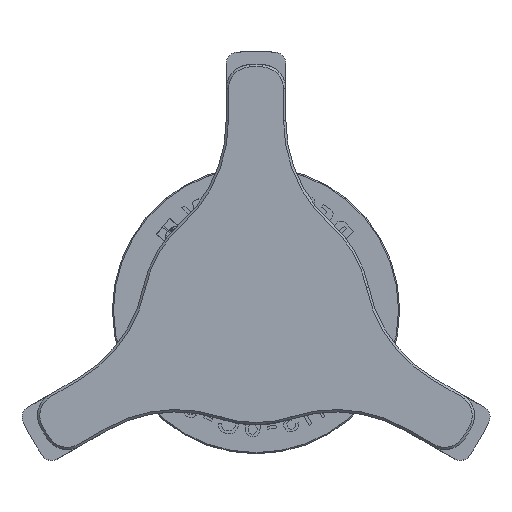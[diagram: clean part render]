
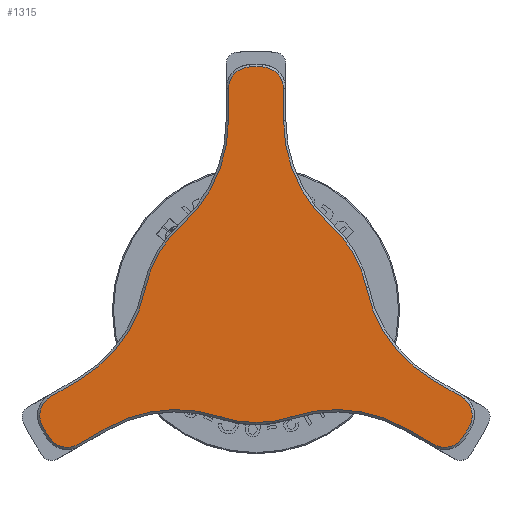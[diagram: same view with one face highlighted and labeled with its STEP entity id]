
A CAD part, top view. The second image highlights one B-rep face of the part: STEP entity #1315.
In plain terms, the highlighted planar face has unit normal (0, 0, 1).
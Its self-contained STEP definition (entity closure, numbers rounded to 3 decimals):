
#1128=PLANE('',#4201);
#1315=ADVANCED_FACE('',(#1515),#1128,.T.);
#1515=FACE_OUTER_BOUND('',#1628,.T.);
#1628=EDGE_LOOP('',(#2256,#2257,#2258,#2259,#2260,#2261,#2262,#2263,#2264,
#2265,#2266,#2267,#2268,#2269,#2270,#2271,#2272,#2273,#2274,#2275,#2276,
#2277,#2278,#2279));
#1872=CIRCLE('',#4183,1.9);
#1873=CIRCLE('',#4184,21.15);
#1874=CIRCLE('',#4185,1.9);
#1875=CIRCLE('',#4186,12.2);
#1876=CIRCLE('',#4187,9.8);
#1877=CIRCLE('',#4188,12.2);
#1878=CIRCLE('',#4189,1.9);
#1879=CIRCLE('',#4190,21.15);
#1880=CIRCLE('',#4191,1.9);
#1881=CIRCLE('',#4192,12.2);
#1882=CIRCLE('',#4193,9.8);
#1883=CIRCLE('',#4194,12.2);
#1884=CIRCLE('',#4195,1.9);
#1885=CIRCLE('',#4196,21.15);
#1886=CIRCLE('',#4197,1.9);
#1887=CIRCLE('',#4198,12.2);
#1888=CIRCLE('',#4199,9.8);
#1889=CIRCLE('',#4200,12.2);
#2256=ORIENTED_EDGE('',*,*,#3537,.T.);
#2257=ORIENTED_EDGE('',*,*,#3538,.T.);
#2258=ORIENTED_EDGE('',*,*,#3539,.T.);
#2259=ORIENTED_EDGE('',*,*,#3540,.T.);
#2260=ORIENTED_EDGE('',*,*,#3541,.T.);
#2261=ORIENTED_EDGE('',*,*,#3542,.T.);
#2262=ORIENTED_EDGE('',*,*,#3543,.T.);
#2263=ORIENTED_EDGE('',*,*,#3544,.T.);
#2264=ORIENTED_EDGE('',*,*,#3545,.T.);
#2265=ORIENTED_EDGE('',*,*,#3546,.T.);
#2266=ORIENTED_EDGE('',*,*,#3547,.T.);
#2267=ORIENTED_EDGE('',*,*,#3548,.T.);
#2268=ORIENTED_EDGE('',*,*,#3549,.T.);
#2269=ORIENTED_EDGE('',*,*,#3550,.T.);
#2270=ORIENTED_EDGE('',*,*,#3551,.T.);
#2271=ORIENTED_EDGE('',*,*,#3552,.T.);
#2272=ORIENTED_EDGE('',*,*,#3553,.T.);
#2273=ORIENTED_EDGE('',*,*,#3554,.T.);
#2274=ORIENTED_EDGE('',*,*,#3555,.T.);
#2275=ORIENTED_EDGE('',*,*,#3556,.T.);
#2276=ORIENTED_EDGE('',*,*,#3557,.T.);
#2277=ORIENTED_EDGE('',*,*,#3558,.T.);
#2278=ORIENTED_EDGE('',*,*,#3559,.T.);
#2279=ORIENTED_EDGE('',*,*,#3560,.T.);
#3156=VERTEX_POINT('',#5252);
#3157=VERTEX_POINT('',#5253);
#3158=VERTEX_POINT('',#5255);
#3159=VERTEX_POINT('',#5257);
#3160=VERTEX_POINT('',#5259);
#3161=VERTEX_POINT('',#5261);
#3162=VERTEX_POINT('',#5263);
#3163=VERTEX_POINT('',#5265);
#3164=VERTEX_POINT('',#5267);
#3165=VERTEX_POINT('',#5269);
#3166=VERTEX_POINT('',#5271);
#3167=VERTEX_POINT('',#5273);
#3168=VERTEX_POINT('',#5275);
#3169=VERTEX_POINT('',#5277);
#3170=VERTEX_POINT('',#5279);
#3171=VERTEX_POINT('',#5281);
#3172=VERTEX_POINT('',#5283);
#3173=VERTEX_POINT('',#5285);
#3174=VERTEX_POINT('',#5287);
#3175=VERTEX_POINT('',#5289);
#3176=VERTEX_POINT('',#5291);
#3177=VERTEX_POINT('',#5293);
#3178=VERTEX_POINT('',#5295);
#3179=VERTEX_POINT('',#5297);
#3537=EDGE_CURVE('',#3156,#3157,#3952,.T.);
#3538=EDGE_CURVE('',#3157,#3158,#1872,.T.);
#3539=EDGE_CURVE('',#3158,#3159,#1873,.T.);
#3540=EDGE_CURVE('',#3159,#3160,#1874,.T.);
#3541=EDGE_CURVE('',#3160,#3161,#3953,.T.);
#3542=EDGE_CURVE('',#3161,#3162,#1875,.T.);
#3543=EDGE_CURVE('',#3162,#3163,#1876,.T.);
#3544=EDGE_CURVE('',#3163,#3164,#1877,.T.);
#3545=EDGE_CURVE('',#3164,#3165,#3954,.T.);
#3546=EDGE_CURVE('',#3165,#3166,#1878,.T.);
#3547=EDGE_CURVE('',#3166,#3167,#1879,.T.);
#3548=EDGE_CURVE('',#3167,#3168,#1880,.T.);
#3549=EDGE_CURVE('',#3168,#3169,#3955,.T.);
#3550=EDGE_CURVE('',#3169,#3170,#1881,.T.);
#3551=EDGE_CURVE('',#3170,#3171,#1882,.T.);
#3552=EDGE_CURVE('',#3171,#3172,#1883,.T.);
#3553=EDGE_CURVE('',#3172,#3173,#3956,.T.);
#3554=EDGE_CURVE('',#3173,#3174,#1884,.T.);
#3555=EDGE_CURVE('',#3174,#3175,#1885,.T.);
#3556=EDGE_CURVE('',#3175,#3176,#1886,.T.);
#3557=EDGE_CURVE('',#3176,#3177,#3957,.T.);
#3558=EDGE_CURVE('',#3177,#3178,#1887,.T.);
#3559=EDGE_CURVE('',#3178,#3179,#1888,.T.);
#3560=EDGE_CURVE('',#3179,#3156,#1889,.T.);
#3952=LINE('',#5251,#4059);
#3953=LINE('',#5260,#4060);
#3954=LINE('',#5268,#4061);
#3955=LINE('',#5276,#4062);
#3956=LINE('',#5284,#4063);
#3957=LINE('',#5292,#4064);
#4059=VECTOR('',#4519,1.);
#4060=VECTOR('',#4526,1.);
#4061=VECTOR('',#4533,1.);
#4062=VECTOR('',#4540,1.);
#4063=VECTOR('',#4547,1.);
#4064=VECTOR('',#4554,1.);
#4183=AXIS2_PLACEMENT_3D('',#5254,#4520,#4521);
#4184=AXIS2_PLACEMENT_3D('',#5256,#4522,#4523);
#4185=AXIS2_PLACEMENT_3D('',#5258,#4524,#4525);
#4186=AXIS2_PLACEMENT_3D('',#5262,#4527,#4528);
#4187=AXIS2_PLACEMENT_3D('',#5264,#4529,#4530);
#4188=AXIS2_PLACEMENT_3D('',#5266,#4531,#4532);
#4189=AXIS2_PLACEMENT_3D('',#5270,#4534,#4535);
#4190=AXIS2_PLACEMENT_3D('',#5272,#4536,#4537);
#4191=AXIS2_PLACEMENT_3D('',#5274,#4538,#4539);
#4192=AXIS2_PLACEMENT_3D('',#5278,#4541,#4542);
#4193=AXIS2_PLACEMENT_3D('',#5280,#4543,#4544);
#4194=AXIS2_PLACEMENT_3D('',#5282,#4545,#4546);
#4195=AXIS2_PLACEMENT_3D('',#5286,#4548,#4549);
#4196=AXIS2_PLACEMENT_3D('',#5288,#4550,#4551);
#4197=AXIS2_PLACEMENT_3D('',#5290,#4552,#4553);
#4198=AXIS2_PLACEMENT_3D('',#5294,#4555,#4556);
#4199=AXIS2_PLACEMENT_3D('',#5296,#4557,#4558);
#4200=AXIS2_PLACEMENT_3D('',#5298,#4559,#4560);
#4201=AXIS2_PLACEMENT_3D('',#5299,#4561,#4562);
#4519=DIRECTION('',(-0.866,-0.5,0.));
#4520=DIRECTION('',(0.,0.,1.));
#4521=DIRECTION('',(0.,-1.,0.));
#4522=DIRECTION('',(0.,0.,1.));
#4523=DIRECTION('',(0.,-1.,0.));
#4524=DIRECTION('',(0.,0.,1.));
#4525=DIRECTION('',(0.,-1.,0.));
#4526=DIRECTION('',(0.866,0.5,0.));
#4527=DIRECTION('',(0.,0.,-1.));
#4528=DIRECTION('',(0.,-1.,0.));
#4529=DIRECTION('',(0.,0.,1.));
#4530=DIRECTION('',(0.,-1.,0.));
#4531=DIRECTION('',(0.,0.,-1.));
#4532=DIRECTION('',(0.,-1.,0.));
#4533=DIRECTION('',(0.866,-0.5,0.));
#4534=DIRECTION('',(0.,0.,1.));
#4535=DIRECTION('',(0.,-1.,0.));
#4536=DIRECTION('',(0.,0.,1.));
#4537=DIRECTION('',(0.,-1.,0.));
#4538=DIRECTION('',(0.,0.,1.));
#4539=DIRECTION('',(0.,-1.,0.));
#4540=DIRECTION('',(-0.866,0.5,0.));
#4541=DIRECTION('',(0.,0.,-1.));
#4542=DIRECTION('',(0.,-1.,0.));
#4543=DIRECTION('',(0.,0.,1.));
#4544=DIRECTION('',(0.,-1.,0.));
#4545=DIRECTION('',(0.,0.,-1.));
#4546=DIRECTION('',(0.,-1.,0.));
#4547=DIRECTION('',(0.,1.,0.));
#4548=DIRECTION('',(0.,0.,1.));
#4549=DIRECTION('',(0.,-1.,0.));
#4550=DIRECTION('',(0.,0.,1.));
#4551=DIRECTION('',(0.,-1.,0.));
#4552=DIRECTION('',(0.,0.,1.));
#4553=DIRECTION('',(0.,-1.,0.));
#4554=DIRECTION('',(0.,-1.,0.));
#4555=DIRECTION('',(0.,0.,-1.));
#4556=DIRECTION('',(0.,-1.,0.));
#4557=DIRECTION('',(0.,0.,1.));
#4558=DIRECTION('',(0.,-1.,0.));
#4559=DIRECTION('',(0.,0.,-1.));
#4560=DIRECTION('',(0.,-1.,0.));
#4561=DIRECTION('',(0.,0.,1.));
#4562=DIRECTION('',(0.,-1.,0.));
#5251=CARTESIAN_POINT('',(-17.865,-7.543,0.3));
#5252=CARTESIAN_POINT('',(-15.452,-6.15,0.3));
#5253=CARTESIAN_POINT('',(-17.865,-7.543,0.3));
#5254=CARTESIAN_POINT('',(-16.915,-9.189,0.3));
#5255=CARTESIAN_POINT('',(-18.585,-10.096,0.3));
#5256=CARTESIAN_POINT('',(0.,0.,0.3));
#5257=CARTESIAN_POINT('',(-18.036,-11.047,0.3));
#5258=CARTESIAN_POINT('',(-16.415,-10.055,0.3));
#5259=CARTESIAN_POINT('',(-15.465,-11.7,0.3));
#5260=CARTESIAN_POINT('',(1.2,-2.078,0.3));
#5261=CARTESIAN_POINT('',(-13.052,-10.307,0.3));
#5262=CARTESIAN_POINT('',(-6.952,-20.873,0.3));
#5263=CARTESIAN_POINT('',(-3.097,-9.298,0.3));
#5264=CARTESIAN_POINT('',(0.,0.,0.3));
#5265=CARTESIAN_POINT('',(3.097,-9.298,0.3));
#5266=CARTESIAN_POINT('',(6.952,-20.873,0.3));
#5267=CARTESIAN_POINT('',(13.052,-10.307,0.3));
#5268=CARTESIAN_POINT('',(-1.2,-2.078,0.3));
#5269=CARTESIAN_POINT('',(15.465,-11.7,0.3));
#5270=CARTESIAN_POINT('',(16.415,-10.055,0.3));
#5271=CARTESIAN_POINT('',(18.036,-11.047,0.3));
#5272=CARTESIAN_POINT('',(0.,0.,0.3));
#5273=CARTESIAN_POINT('',(18.585,-10.096,0.3));
#5274=CARTESIAN_POINT('',(16.915,-9.189,0.3));
#5275=CARTESIAN_POINT('',(17.865,-7.543,0.3));
#5276=CARTESIAN_POINT('',(15.452,-6.15,0.3));
#5277=CARTESIAN_POINT('',(15.452,-6.15,0.3));
#5278=CARTESIAN_POINT('',(21.552,4.415,0.3));
#5279=CARTESIAN_POINT('',(9.601,1.967,0.3));
#5280=CARTESIAN_POINT('',(0.,0.,0.3));
#5281=CARTESIAN_POINT('',(6.504,7.331,0.3));
#5282=CARTESIAN_POINT('',(14.6,16.457,0.3));
#5283=CARTESIAN_POINT('',(2.4,16.457,0.3));
#5284=CARTESIAN_POINT('',(2.4,19.244,0.3));
#5285=CARTESIAN_POINT('',(2.4,19.244,0.3));
#5286=CARTESIAN_POINT('',(0.5,19.244,0.3));
#5287=CARTESIAN_POINT('',(0.549,21.143,0.3));
#5288=CARTESIAN_POINT('',(0.,0.,0.3));
#5289=CARTESIAN_POINT('',(-0.549,21.143,0.3));
#5290=CARTESIAN_POINT('',(-0.5,19.244,0.3));
#5291=CARTESIAN_POINT('',(-2.4,19.244,0.3));
#5292=CARTESIAN_POINT('',(-2.4,16.457,0.3));
#5293=CARTESIAN_POINT('',(-2.4,16.457,0.3));
#5294=CARTESIAN_POINT('',(-14.6,16.457,0.3));
#5295=CARTESIAN_POINT('',(-6.504,7.331,0.3));
#5296=CARTESIAN_POINT('',(0.,0.,0.3));
#5297=CARTESIAN_POINT('',(-9.601,1.967,0.3));
#5298=CARTESIAN_POINT('',(-21.552,4.415,0.3));
#5299=CARTESIAN_POINT('',(0.,0.,0.3));
